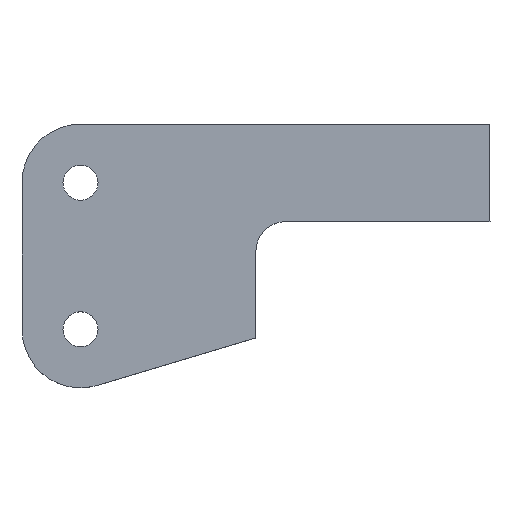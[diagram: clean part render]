
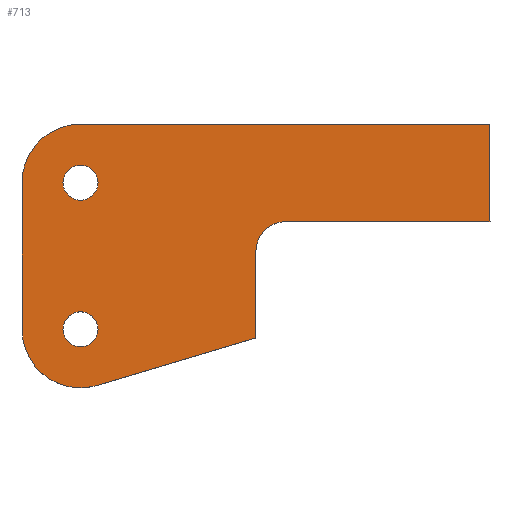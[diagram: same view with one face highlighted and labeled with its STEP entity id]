
A CAD part, top view. The second image highlights one B-rep face of the part: STEP entity #713.
In plain terms, the highlighted planar face has unit normal (0, 0, 1).
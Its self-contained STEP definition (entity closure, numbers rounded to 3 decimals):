
#336=PLANE('',#691);
#341=CIRCLE('',#680,15.);
#343=CIRCLE('',#684,15.);
#344=CIRCLE('',#689,7.5);
#346=CIRCLE('',#692,4.5);
#347=CIRCLE('',#693,4.5);
#378=ORIENTED_EDGE('',*,*,#479,.T.);
#379=ORIENTED_EDGE('',*,*,#498,.T.);
#380=ORIENTED_EDGE('',*,*,#499,.F.);
#381=ORIENTED_EDGE('',*,*,#495,.F.);
#382=ORIENTED_EDGE('',*,*,#494,.F.);
#383=ORIENTED_EDGE('',*,*,#491,.F.);
#384=ORIENTED_EDGE('',*,*,#488,.T.);
#385=ORIENTED_EDGE('',*,*,#485,.F.);
#386=ORIENTED_EDGE('',*,*,#482,.F.);
#387=ORIENTED_EDGE('',*,*,#500,.F.);
#388=ORIENTED_EDGE('',*,*,#501,.F.);
#416=VECTOR('',#557,1.);
#420=VECTOR('',#569,1.);
#423=VECTOR('',#574,1.);
#426=VECTOR('',#579,1.);
#428=VECTOR('',#589,1.);
#429=VECTOR('',#590,1.);
#437=LINE('',#626,#416);
#441=LINE('',#638,#420);
#444=LINE('',#644,#423);
#447=LINE('',#650,#426);
#449=LINE('',#659,#428);
#450=LINE('',#660,#429);
#455=VERTEX_POINT('',#614);
#457=VERTEX_POINT('',#618);
#459=VERTEX_POINT('',#623);
#461=VERTEX_POINT('',#629);
#463=VERTEX_POINT('',#635);
#465=VERTEX_POINT('',#641);
#467=VERTEX_POINT('',#647);
#468=VERTEX_POINT('',#652);
#470=VERTEX_POINT('',#658);
#471=VERTEX_POINT('',#661);
#472=VERTEX_POINT('',#663);
#479=EDGE_CURVE('',#455,#457,#341,.T.);
#482=EDGE_CURVE('',#455,#459,#437,.T.);
#485=EDGE_CURVE('',#459,#461,#343,.T.);
#488=EDGE_CURVE('',#463,#461,#441,.T.);
#491=EDGE_CURVE('',#463,#465,#444,.T.);
#494=EDGE_CURVE('',#465,#467,#447,.T.);
#495=EDGE_CURVE('',#467,#468,#344,.T.);
#498=EDGE_CURVE('',#457,#470,#449,.T.);
#499=EDGE_CURVE('',#468,#470,#450,.T.);
#500=EDGE_CURVE('',#471,#471,#346,.T.);
#501=EDGE_CURVE('',#472,#472,#347,.T.);
#514=EDGE_LOOP('',(#378,#379,#380,#381,#382,#383,#384,#385,#386));
#515=EDGE_LOOP('',(#387));
#516=EDGE_LOOP('',(#388));
#533=FACE_BOUND('',#514,.T.);
#534=FACE_BOUND('',#515,.T.);
#535=FACE_BOUND('',#516,.T.);
#551=DIRECTION('',(0.,0.,1.));
#552=DIRECTION('',(0.,15.,0.));
#557=DIRECTION('',(0.,37.612,0.));
#563=DIRECTION('',(0.,0.,-1.));
#564=DIRECTION('',(0.,-15.,0.));
#569=DIRECTION('',(-105.,0.,0.));
#574=DIRECTION('',(0.,-25.,0.));
#579=DIRECTION('',(-52.5,0.,0.));
#582=DIRECTION('',(0.,0.,1.));
#583=DIRECTION('',(-7.5,0.,0.));
#587=DIRECTION('',(0.,0.,1.));
#588=DIRECTION('',(0.,-1.,0.));
#589=DIRECTION('',(40.704,12.167,0.));
#590=DIRECTION('',(0.,-22.317,0.));
#591=DIRECTION('',(0.,0.,1.));
#592=DIRECTION('',(0.,-4.5,0.));
#593=DIRECTION('',(0.,0.,1.));
#594=DIRECTION('',(0.,-4.5,0.));
#614=CARTESIAN_POINT('',(5749.504,13838.748,8.));
#618=CARTESIAN_POINT('',(5768.799,13824.376,8.));
#620=CARTESIAN_POINT('',(5764.504,13838.748,8.));
#623=CARTESIAN_POINT('',(5749.504,13876.36,8.));
#626=CARTESIAN_POINT('',(5749.504,13838.748,8.));
#629=CARTESIAN_POINT('',(5764.504,13891.36,8.));
#632=CARTESIAN_POINT('',(5764.504,13876.36,8.));
#635=CARTESIAN_POINT('',(5869.504,13891.36,8.));
#638=CARTESIAN_POINT('',(5869.504,13891.36,8.));
#641=CARTESIAN_POINT('',(5869.504,13866.36,8.));
#644=CARTESIAN_POINT('',(5869.504,13891.36,8.));
#647=CARTESIAN_POINT('',(5817.004,13866.36,8.));
#650=CARTESIAN_POINT('',(5869.504,13866.36,8.));
#652=CARTESIAN_POINT('',(5809.504,13858.86,8.));
#653=CARTESIAN_POINT('',(5817.004,13858.86,8.));
#657=CARTESIAN_POINT('',(0.,0.,8.));
#658=CARTESIAN_POINT('',(5809.504,13836.543,8.));
#659=CARTESIAN_POINT('',(5768.799,13824.376,8.));
#660=CARTESIAN_POINT('',(5809.504,13858.86,8.));
#661=CARTESIAN_POINT('',(5764.504,13871.86,8.));
#662=CARTESIAN_POINT('',(5764.504,13876.36,8.));
#663=CARTESIAN_POINT('',(5764.504,13834.248,8.));
#664=CARTESIAN_POINT('',(5764.504,13838.748,8.));
#680=AXIS2_PLACEMENT_3D('',#620,#551,#552);
#684=AXIS2_PLACEMENT_3D('',#632,#563,#564);
#689=AXIS2_PLACEMENT_3D('',#653,#582,#583);
#691=AXIS2_PLACEMENT_3D('',#657,#587,#588);
#692=AXIS2_PLACEMENT_3D('',#662,#591,#592);
#693=AXIS2_PLACEMENT_3D('',#664,#593,#594);
#713=ADVANCED_FACE('',(#533,#534,#535),#336,.T.);
